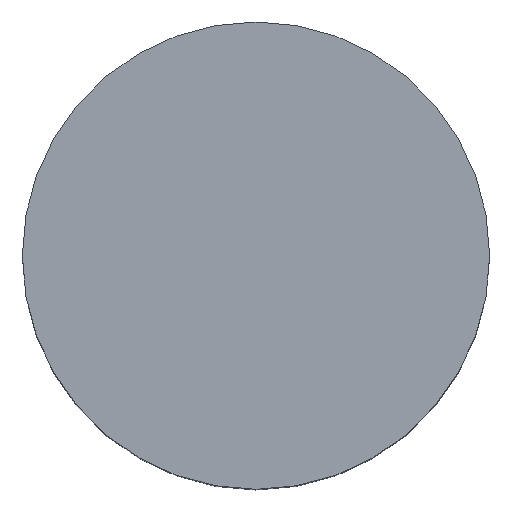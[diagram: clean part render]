
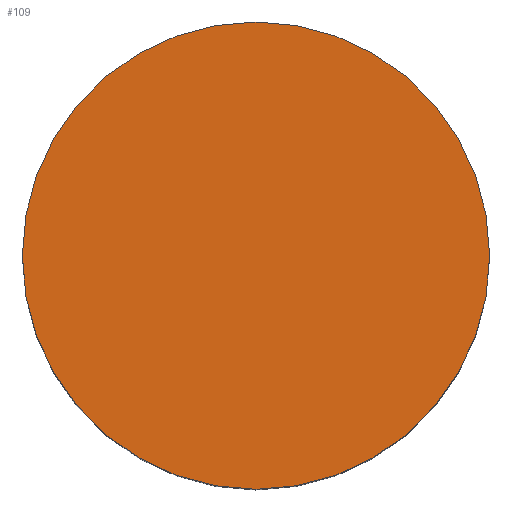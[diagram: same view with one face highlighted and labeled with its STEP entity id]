
A CAD part, top view. The second image highlights one B-rep face of the part: STEP entity #109.
In plain terms, the highlighted planar face has unit normal (0, 0, 1).
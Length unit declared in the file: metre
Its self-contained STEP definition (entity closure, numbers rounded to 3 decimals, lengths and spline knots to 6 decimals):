
#2 = CARTESIAN_POINT ( 'NONE',  ( 0., 0., 0.0125 ) ) ;
#12 = VERTEX_POINT ( 'NONE', #201 ) ;
#21 = AXIS2_PLACEMENT_3D ( 'NONE', #81, #136, #94 ) ;
#33 = EDGE_CURVE ( 'NONE', #100, #12, #204, .T. ) ;
#35 = ORIENTED_EDGE ( 'NONE', *, *, #33, .T. ) ;
#55 = EDGE_LOOP ( 'NONE', ( #76, #35 ) ) ;
#66 = DIRECTION ( 'NONE',  ( 0., 0., 1. ) ) ;
#76 = ORIENTED_EDGE ( 'NONE', *, *, #170, .T. ) ;
#81 = CARTESIAN_POINT ( 'NONE',  ( 0., 0., 0.0125 ) ) ;
#92 = DIRECTION ( 'NONE',  ( 1., 0., 0. ) ) ;
#94 = DIRECTION ( 'NONE',  ( 1., 0., 0. ) ) ;
#99 = CARTESIAN_POINT ( 'NONE',  ( 0., 0., 0.0125 ) ) ;
#100 = VERTEX_POINT ( 'NONE', #123 ) ;
#102 = CIRCLE ( 'NONE', #162, 0.0015 ) ;
#104 = DIRECTION ( 'NONE',  ( 0., 0., 1. ) ) ;
#109 = ADVANCED_FACE ( 'NONE', ( #205 ), #172, .T. ) ;
#110 = AXIS2_PLACEMENT_3D ( 'NONE', #99, #104, #183 ) ;
#123 = CARTESIAN_POINT ( 'NONE',  ( -0.0015, 0., 0.0125 ) ) ;
#136 = DIRECTION ( 'NONE',  ( 0., 0., 1. ) ) ;
#162 = AXIS2_PLACEMENT_3D ( 'NONE', #2, #66, #92 ) ;
#170 = EDGE_CURVE ( 'NONE', #12, #100, #102, .T. ) ;
#172 = PLANE ( 'NONE',  #21 ) ;
#183 = DIRECTION ( 'NONE',  ( 1., 0., 0. ) ) ;
#201 = CARTESIAN_POINT ( 'NONE',  ( 0.0015, 0., 0.0125 ) ) ;
#204 = CIRCLE ( 'NONE', #110, 0.0015 ) ;
#205 = FACE_OUTER_BOUND ( 'NONE', #55, .T. ) ;
